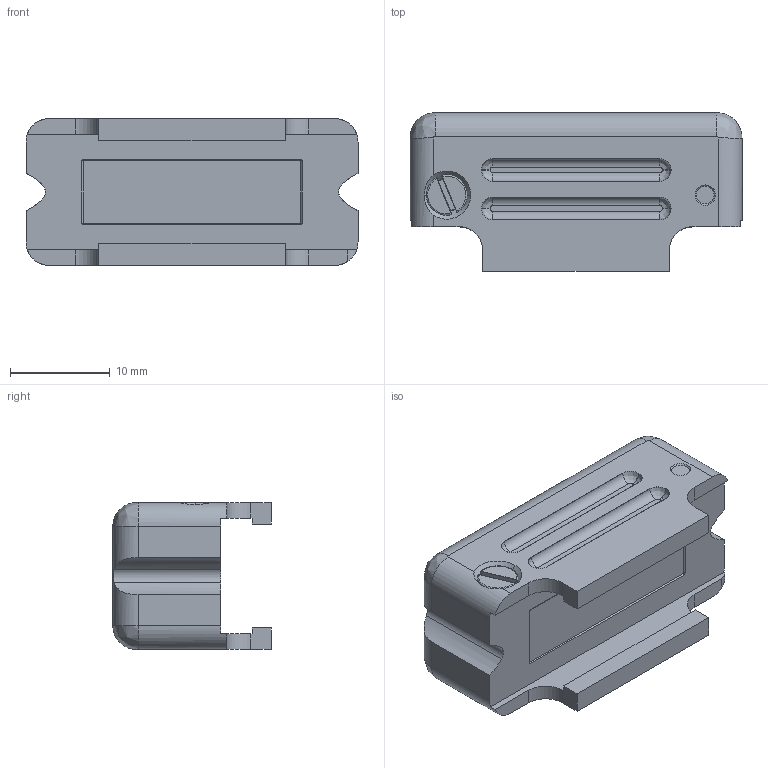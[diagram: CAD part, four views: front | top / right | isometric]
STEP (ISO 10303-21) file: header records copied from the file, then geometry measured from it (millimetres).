
FILE_DESCRIPTION (( 'STEP AP203' ), '1' );
FILE_NAME ('112291.stp', '2018-11-28T22:35:44', ( '' ), ( '' ), 'SwSTEP 2.0', 'SolidWorks 2012', '' );
FILE_SCHEMA (( 'CONFIG_CONTROL_DESIGN' ));
Length unit declared in the file: centimetre
Products named in the file (1): 112291
Bounding box: 33.27 x 15.88 x 14.73 mm (x, y, z)
Volume: 5250.5 mm3; surface area: 2492.7 mm2
Topology: 1 solids, 1 shells, 208 faces, 515 edges, 319 vertices
Faces by surface type: plane 65, bspline 64, cylinder 59, cone 20
Entity records: 10017 total; most frequent: CARTESIAN_POINT 5433, ORIENTED_EDGE 1030, DIRECTION 830, EDGE_CURVE 515, VERTEX_POINT 319, AXIS2_PLACEMENT_3D 308, EDGE_LOOP 218, VECTOR 214
